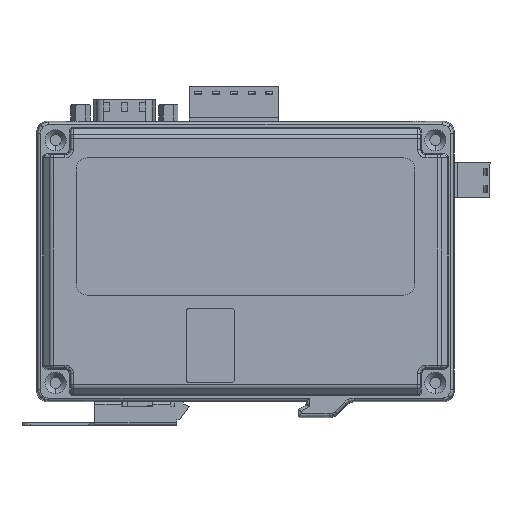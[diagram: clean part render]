
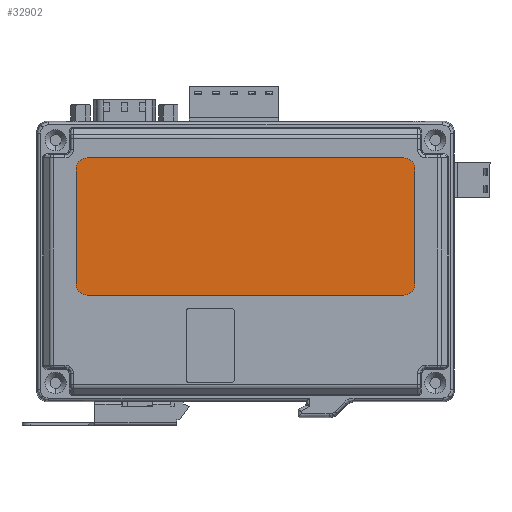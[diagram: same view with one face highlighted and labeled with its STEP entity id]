
A CAD part, front view. The second image highlights one B-rep face of the part: STEP entity #32902.
In plain terms, the highlighted planar face has unit normal (0, -1, 0) as drawn and (-1, 0, 0) by its records, which use the part's own axes.
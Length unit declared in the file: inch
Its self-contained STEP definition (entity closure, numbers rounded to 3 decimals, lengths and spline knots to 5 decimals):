
#148 = LINE ( 'NONE', #4736, #17899 ) ;
#1072 = CARTESIAN_POINT ( 'NONE',  ( 11.64063, -4.21361, -2.04792 ) ) ;
#4736 = CARTESIAN_POINT ( 'NONE',  ( 11.64063, -0.53639, -3.46374 ) ) ;
#9831 = CARTESIAN_POINT ( 'NONE',  ( 11.64063, -0.53639, -3.33874 ) ) ;
#10502 = ORIENTED_EDGE ( 'NONE', *, *, #12243, .T. ) ;
#10561 = VERTEX_POINT ( 'NONE', #73378 ) ;
#12243 = EDGE_CURVE ( 'NONE', #104581, #86921, #107422, .T. ) ;
#14832 = EDGE_LOOP ( 'NONE', ( #10502, #35676, #30633, #104015, #90136, #42556, #28177, #81950 ) ) ;
#15678 = FACE_OUTER_BOUND ( 'NONE', #14832, .T. ) ;
#16675 = AXIS2_PLACEMENT_3D ( 'NONE', #17655, #78801, #26449 ) ;
#17655 = CARTESIAN_POINT ( 'NONE',  ( 11.64063, -0.53639, -2.04792 ) ) ;
#17899 = VECTOR ( 'NONE', #57140, 39.37008 ) ;
#18634 = DIRECTION ( 'NONE',  ( 0., 0., 1. ) ) ;
#24834 = EDGE_CURVE ( 'NONE', #10561, #104581, #35192, .T. ) ;
#26449 = DIRECTION ( 'NONE',  ( 0., 0., 1. ) ) ;
#28177 = ORIENTED_EDGE ( 'NONE', *, *, #42423, .T. ) ;
#28948 = CIRCLE ( 'NONE', #93720, 0.125 ) ;
#30293 = VECTOR ( 'NONE', #70835, 39.37008 ) ;
#30633 = ORIENTED_EDGE ( 'NONE', *, *, #54021, .T. ) ;
#32902 = ADVANCED_FACE ( 'NONE', ( #15678 ), #112921, .T. ) ;
#35192 = LINE ( 'NONE', #86309, #78951 ) ;
#35676 = ORIENTED_EDGE ( 'NONE', *, *, #62103, .T. ) ;
#36255 = EDGE_CURVE ( 'NONE', #44571, #68996, #148, .T. ) ;
#36686 = AXIS2_PLACEMENT_3D ( 'NONE', #43467, #104502, #52243 ) ;
#36955 = DIRECTION ( 'NONE',  ( -1., 0., 0. ) ) ;
#42423 = EDGE_CURVE ( 'NONE', #43653, #10561, #61502, .T. ) ;
#42556 = ORIENTED_EDGE ( 'NONE', *, *, #63710, .T. ) ;
#43467 = CARTESIAN_POINT ( 'NONE',  ( 11.64063, -0.53639, -2.04792 ) ) ;
#43653 = VERTEX_POINT ( 'NONE', #1072 ) ;
#44020 = CIRCLE ( 'NONE', #60624, 0.125 ) ;
#44571 = VERTEX_POINT ( 'NONE', #66615 ) ;
#46715 = CARTESIAN_POINT ( 'NONE',  ( 11.64063, -0.53639, -1.92292 ) ) ;
#49435 = DIRECTION ( 'NONE',  ( -1., 0., 0. ) ) ;
#52243 = DIRECTION ( 'NONE',  ( 0., 0., 1. ) ) ;
#53563 = LINE ( 'NONE', #105521, #30293 ) ;
#54021 = EDGE_CURVE ( 'NONE', #81555, #44571, #44020, .T. ) ;
#57140 = DIRECTION ( 'NONE',  ( 0., -1., 0. ) ) ;
#57848 = VERTEX_POINT ( 'NONE', #85420 ) ;
#60624 = AXIS2_PLACEMENT_3D ( 'NONE', #9831, #71046, #18634 ) ;
#61502 = CIRCLE ( 'NONE', #77196, 0.125 ) ;
#62103 = EDGE_CURVE ( 'NONE', #86921, #81555, #53563, .T. ) ;
#63710 = EDGE_CURVE ( 'NONE', #57848, #43653, #106950, .T. ) ;
#64086 = EDGE_CURVE ( 'NONE', #68996, #57848, #28948, .T. ) ;
#64730 = CARTESIAN_POINT ( 'NONE',  ( 11.64063, -0.41139, -3.33874 ) ) ;
#64853 = DIRECTION ( 'NONE',  ( 0., 0., 1. ) ) ;
#66615 = CARTESIAN_POINT ( 'NONE',  ( 11.64063, -0.53639, -3.46374 ) ) ;
#68996 = VERTEX_POINT ( 'NONE', #104973 ) ;
#70835 = DIRECTION ( 'NONE',  ( 0., 0., -1. ) ) ;
#71046 = DIRECTION ( 'NONE',  ( -1., 0., 0. ) ) ;
#73378 = CARTESIAN_POINT ( 'NONE',  ( 11.64063, -4.08861, -1.92292 ) ) ;
#77006 = CARTESIAN_POINT ( 'NONE',  ( 11.64063, -0.41139, -2.04792 ) ) ;
#77196 = AXIS2_PLACEMENT_3D ( 'NONE', #101666, #49435, #110453 ) ;
#78801 = DIRECTION ( 'NONE',  ( -1., 0., 0. ) ) ;
#78951 = VECTOR ( 'NONE', #86682, 39.37008 ) ;
#81555 = VERTEX_POINT ( 'NONE', #64730 ) ;
#81950 = ORIENTED_EDGE ( 'NONE', *, *, #24834, .T. ) ;
#83782 = VECTOR ( 'NONE', #64853, 39.37008 ) ;
#85420 = CARTESIAN_POINT ( 'NONE',  ( 11.64063, -4.21361, -3.33874 ) ) ;
#86309 = CARTESIAN_POINT ( 'NONE',  ( 11.64063, -4.08861, -1.92292 ) ) ;
#86682 = DIRECTION ( 'NONE',  ( 0., 1., 0. ) ) ;
#86921 = VERTEX_POINT ( 'NONE', #77006 ) ;
#89290 = CARTESIAN_POINT ( 'NONE',  ( 11.64063, -4.08861, -3.33874 ) ) ;
#90136 = ORIENTED_EDGE ( 'NONE', *, *, #64086, .T. ) ;
#93720 = AXIS2_PLACEMENT_3D ( 'NONE', #89290, #36955, #98034 ) ;
#98034 = DIRECTION ( 'NONE',  ( 0., 0., 1. ) ) ;
#99522 = CARTESIAN_POINT ( 'NONE',  ( 11.64063, -4.21361, -3.33874 ) ) ;
#101666 = CARTESIAN_POINT ( 'NONE',  ( 11.64063, -4.08861, -2.04792 ) ) ;
#104015 = ORIENTED_EDGE ( 'NONE', *, *, #36255, .T. ) ;
#104502 = DIRECTION ( 'NONE',  ( -1., 0., 0. ) ) ;
#104581 = VERTEX_POINT ( 'NONE', #46715 ) ;
#104973 = CARTESIAN_POINT ( 'NONE',  ( 11.64063, -4.08861, -3.46374 ) ) ;
#105521 = CARTESIAN_POINT ( 'NONE',  ( 11.64063, -0.41139, -2.04792 ) ) ;
#106950 = LINE ( 'NONE', #99522, #83782 ) ;
#107422 = CIRCLE ( 'NONE', #16675, 0.125 ) ;
#110453 = DIRECTION ( 'NONE',  ( 0., 0., 1. ) ) ;
#112921 = PLANE ( 'NONE',  #36686 ) ;
